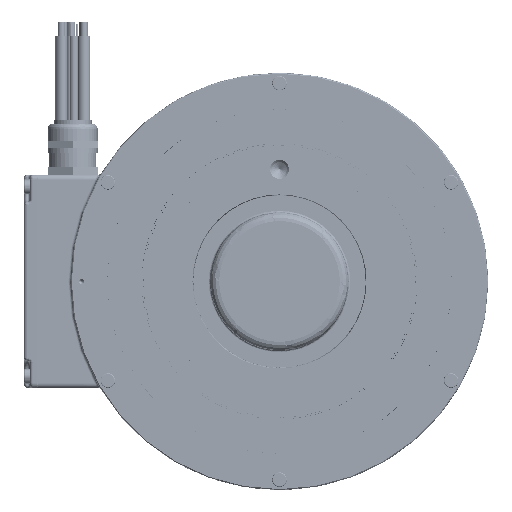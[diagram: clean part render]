
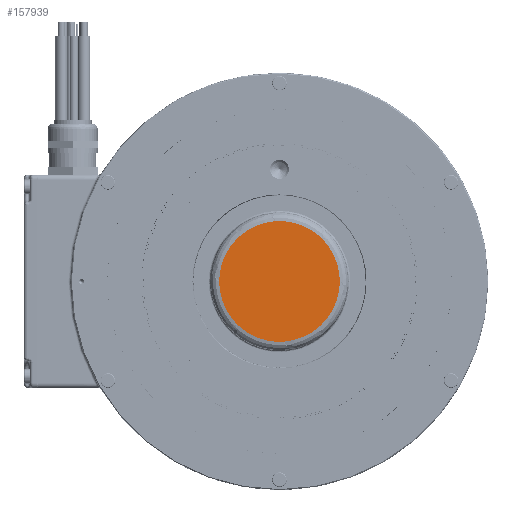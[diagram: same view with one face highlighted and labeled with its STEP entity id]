
A CAD part, left-side view. The second image highlights one B-rep face of the part: STEP entity #157939.
In plain terms, the highlighted planar face has unit normal (-1, 0, 0).
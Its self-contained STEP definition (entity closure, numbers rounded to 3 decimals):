
#1616 = PLANE ( 'NONE',  #139250 ) ;
#16962 = CARTESIAN_POINT ( 'NONE',  ( -266.65, 24.749, -24.749 ) ) ;
#19163 = EDGE_LOOP ( 'NONE', ( #39462, #154565, #32134, #50431 ) ) ;
#23906 = EDGE_CURVE ( 'NONE', #139595, #99752, #121995, .T. ) ;
#32134 = ORIENTED_EDGE ( 'NONE', *, *, #114654, .F. ) ;
#39462 = ORIENTED_EDGE ( 'NONE', *, *, #124834, .F. ) ;
#44398 = CARTESIAN_POINT ( 'NONE',  ( -266.65, 24.718, -24.779 ) ) ;
#48502 = CARTESIAN_POINT ( 'NONE',  ( -266.65, -24.688, 24.81 ) ) ;
#49964 = CARTESIAN_POINT ( 'NONE',  ( -266.65, 24.657, -24.84 ) ) ;
#50431 = ORIENTED_EDGE ( 'NONE', *, *, #23906, .F. ) ;
#62083 = FACE_OUTER_BOUND ( 'NONE', #19163, .T. ) ;
#68860 = CARTESIAN_POINT ( 'NONE',  ( -266.65, -24.749, 24.749 ) ) ;
#72520 = CARTESIAN_POINT ( 'NONE',  ( -266.65, -24.84, -73.973 ) ) ;
#75395 = VERTEX_POINT ( 'NONE', #134306 ) ;
#85893 = EDGE_CURVE ( 'NONE', #75395, #139290, #175297, .T. ) ;
#96149 = CARTESIAN_POINT ( 'NONE',  ( -266.65, 0., 0. ) ) ;
#99752 = VERTEX_POINT ( 'NONE', #204213 ) ;
#113631 = CARTESIAN_POINT ( 'NONE',  ( -266.65, -24.749, 24.749 ) ) ;
#114654 = EDGE_CURVE ( 'NONE', #99752, #75395, #126436, .T. ) ;
#121995 =( BOUNDED_CURVE ( )  B_SPLINE_CURVE ( 3, ( #175504, #194461, #44398, #217101 ),
 .UNSPECIFIED., .F., .F. ) 
 B_SPLINE_CURVE_WITH_KNOTS ( ( 4, 4 ),
 ( 0.999, 1. ),
 .UNSPECIFIED. ) 
 CURVE ( )  GEOMETRIC_REPRESENTATION_ITEM ( )  RATIONAL_B_SPLINE_CURVE ( ( 1., 1., 1., 1. ) ) 
 REPRESENTATION_ITEM ( '' )  );
#124834 = EDGE_CURVE ( 'NONE', #139290, #139595, #189694, .T. ) ;
#126436 =( BOUNDED_CURVE ( )  B_SPLINE_CURVE ( 3, ( #16962, #197118, #198370, #161751 ),
 .UNSPECIFIED., .F., .T. ) 
 B_SPLINE_CURVE_WITH_KNOTS ( ( 4, 4 ),
 ( 0., 0.999 ),
 .UNSPECIFIED. ) 
 CURVE ( )  GEOMETRIC_REPRESENTATION_ITEM ( )  RATIONAL_B_SPLINE_CURVE ( ( 1., 0.335, 0.335, 1. ) ) 
 REPRESENTATION_ITEM ( '' )  );
#129036 = CARTESIAN_POINT ( 'NONE',  ( -266.65, -24.657, 24.84 ) ) ;
#134306 = CARTESIAN_POINT ( 'NONE',  ( -266.65, -24.657, 24.84 ) ) ;
#139250 = AXIS2_PLACEMENT_3D ( 'NONE', #96149, #155365, #232318 ) ;
#139290 = VERTEX_POINT ( 'NONE', #113631 ) ;
#139595 = VERTEX_POINT ( 'NONE', #234323 ) ;
#145502 = CARTESIAN_POINT ( 'NONE',  ( -266.65, -24.749, 24.749 ) ) ;
#154565 = ORIENTED_EDGE ( 'NONE', *, *, #85893, .F. ) ;
#155365 = DIRECTION ( 'NONE',  ( -1., 0., 0. ) ) ;
#157939 = ADVANCED_FACE ( 'NONE', ( #62083 ), #1616, .T. ) ;
#161751 = CARTESIAN_POINT ( 'NONE',  ( -266.65, -24.657, 24.84 ) ) ;
#175297 =( BOUNDED_CURVE ( )  B_SPLINE_CURVE ( 3, ( #129036, #48502, #202257, #145502 ),
 .UNSPECIFIED., .F., .F. ) 
 B_SPLINE_CURVE_WITH_KNOTS ( ( 4, 4 ),
 ( 0.999, 1. ),
 .UNSPECIFIED. ) 
 CURVE ( )  GEOMETRIC_REPRESENTATION_ITEM ( )  RATIONAL_B_SPLINE_CURVE ( ( 1., 1., 1., 1. ) ) 
 REPRESENTATION_ITEM ( '' )  );
#175504 = CARTESIAN_POINT ( 'NONE',  ( -266.65, 24.657, -24.84 ) ) ;
#189694 =( BOUNDED_CURVE ( )  B_SPLINE_CURVE ( 3, ( #68860, #222666, #72520, #49964 ),
 .UNSPECIFIED., .F., .F. ) 
 B_SPLINE_CURVE_WITH_KNOTS ( ( 4, 4 ),
 ( 0., 0.999 ),
 .UNSPECIFIED. ) 
 CURVE ( )  GEOMETRIC_REPRESENTATION_ITEM ( )  RATIONAL_B_SPLINE_CURVE ( ( 1., 0.335, 0.335, 1. ) ) 
 REPRESENTATION_ITEM ( '' )  );
#194461 = CARTESIAN_POINT ( 'NONE',  ( -266.65, 24.688, -24.81 ) ) ;
#197118 = CARTESIAN_POINT ( 'NONE',  ( -266.65, 74.064, 24.566 ) ) ;
#198370 = CARTESIAN_POINT ( 'NONE',  ( -266.65, 24.84, 73.973 ) ) ;
#202257 = CARTESIAN_POINT ( 'NONE',  ( -266.65, -24.718, 24.779 ) ) ;
#204213 = CARTESIAN_POINT ( 'NONE',  ( -266.65, 24.749, -24.749 ) ) ;
#217101 = CARTESIAN_POINT ( 'NONE',  ( -266.65, 24.749, -24.749 ) ) ;
#222666 = CARTESIAN_POINT ( 'NONE',  ( -266.65, -74.064, -24.566 ) ) ;
#232318 = DIRECTION ( 'NONE',  ( 0., 0.707, 0.707 ) ) ;
#234323 = CARTESIAN_POINT ( 'NONE',  ( -266.65, 24.657, -24.84 ) ) ;
